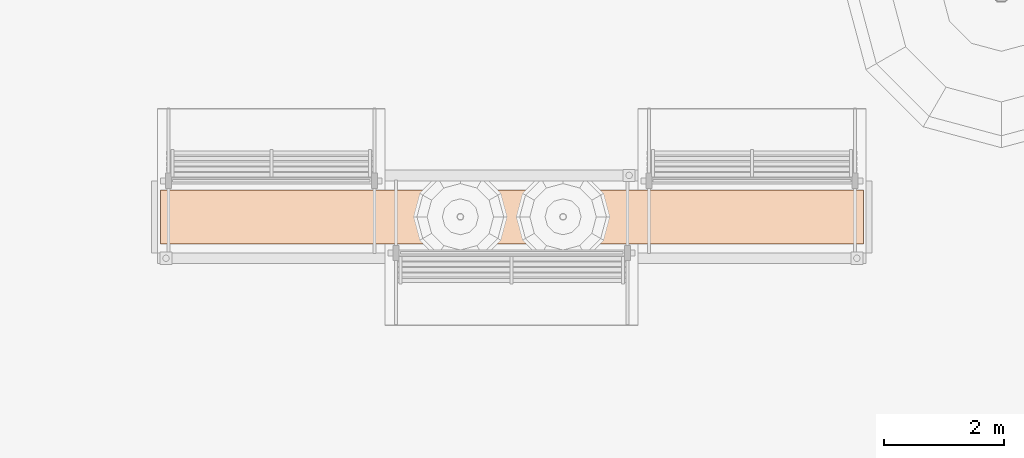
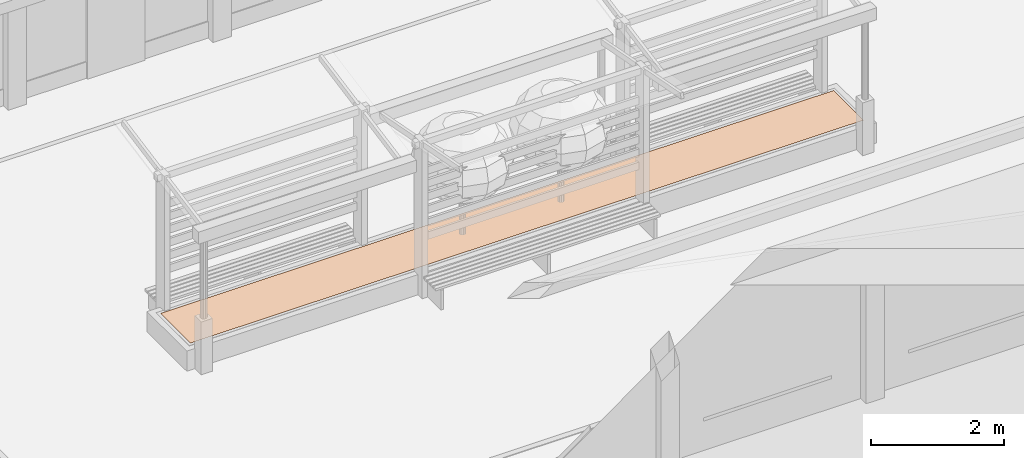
# One storey, part 172 of 177: 1 geographic element.
"""IFC4 building model written with IfcOpenShell, lengths in metres."""

from ifc_helpers import new_model, si_unit, origin, origin_with_axes, place, context, subcontext, project, spatial, triangles, element, save


model = new_model("IFC4")

# Units and contexts
model_context = context("Model", 3, precision=1e-05, world=origin_with_axes())
body_context = subcontext(model_context, "Body", "Model", "MODEL_VIEW")
ifc_project = project(units=[si_unit("LENGTHUNIT", "METRE"), si_unit("AREAUNIT", "SQUARE_METRE"), si_unit("VOLUMEUNIT", "CUBIC_METRE"), si_unit("PLANEANGLEUNIT", "RADIAN")], contexts=[model_context])

# Site, building, storey
site_placement = place(None, origin_with_axes())
site = spatial("IfcSite", under=ifc_project, at=site_placement, Name="Predio Los Mangos - Morales, San Martín", CompositionType="ELEMENT")
building_placement = place(site_placement, origin())
building = spatial("IfcBuilding", under=site, at=building_placement, Name="Hogar de Refugio Temporal", CompositionType="ELEMENT")
storey_placement = place(building_placement, origin())
storey = spatial("IfcBuildingStorey", under=building, at=storey_placement, Name="NIVEL 1 (NPT +0.00)", CompositionType="ELEMENT", Elevation=0.0)

# Geographic element
geographic_element_placement = place(storey_placement, origin())
element("IfcGeographicElement", 1, at=geographic_element_placement, inside=storey, Name="pasto_jardinera_2", ObjectType="Área verde", PredefinedType="TERRAIN", context=body_context, shape_type="Tessellation", body=[
    triangles([(34.505, 109.8, 0.455), (34.655, 109.8, 0.455), (34.655, 109.95, 0.455), (34.505, 109.95, 0.455), (34.655, 110.1, 0.455), (34.505, 110.1, 0.455), (34.655, 110.25, 0.455), (34.505, 110.25, 0.455), (34.655, 110.4, 0.455), (34.505, 110.4, 0.455), (34.655, 110.55, 0.455), (34.505, 110.55, 0.455), (34.655, 110.7, 0.455), (34.505, 110.7, 0.455), (34.805, 109.8, 0.455), (34.805, 109.95, 0.455), (34.805, 110.1, 0.455), (34.805, 110.25, 0.455), (34.805, 110.4, 0.455), (34.805, 110.55, 0.455), (34.805, 110.7, 0.455), (34.955, 109.8, 0.455), (34.955, 109.95, 0.455), (34.955, 110.1, 0.455), (34.955, 110.25, 0.455), (34.955, 110.4, 0.455), (34.955, 110.55, 0.455), (34.955, 110.7, 0.455), (35.105, 109.8, 0.455), (35.105, 109.95, 0.455), (35.105, 110.1, 0.455), (35.105, 110.25, 0.455), (35.105, 110.4, 0.455), (35.105, 110.55, 0.455), (35.105, 110.7, 0.455), (35.255, 109.8, 0.455), (35.255, 109.95, 0.455), (35.255, 110.1, 0.455), (35.255, 110.25, 0.455), (35.255, 110.4, 0.455), (35.255, 110.55, 0.455), (35.255, 110.7, 0.455), (35.405, 109.8, 0.455), (35.405, 109.95, 0.455), (35.405, 110.1, 0.455), (35.405, 110.25, 0.455), (35.405, 110.4, 0.455), (35.405, 110.55, 0.455), (35.405, 110.7, 0.455), (35.555, 109.8, 0.455), (35.555, 109.95, 0.455), (35.555, 110.1, 0.455), (35.555, 110.25, 0.455), (35.555, 110.4, 0.455), (35.555, 110.55, 0.455), (35.555, 110.7, 0.455), (35.705, 109.8, 0.455), (35.705, 109.95, 0.455), (35.705, 110.1, 0.455), (35.705, 110.25, 0.455), (35.705, 110.4, 0.455), (35.705, 110.55, 0.455), (35.705, 110.7, 0.455), (35.855, 109.8, 0.455), (35.855, 109.95, 0.455), (35.855, 110.1, 0.455), (35.855, 110.25, 0.455), (35.855, 110.4, 0.455), (35.855, 110.55, 0.455), (35.855, 110.7, 0.455), (36.005, 109.8, 0.455), (36.005, 109.95, 0.455), (36.005, 110.1, 0.455), (36.005, 110.25, 0.455), (36.005, 110.4, 0.455), (36.005, 110.55, 0.455), (36.005, 110.7, 0.455), (36.155, 109.8, 0.455), (36.155, 109.95, 0.455), (36.155, 110.1, 0.455), (36.155, 110.25, 0.455), (36.155, 110.4, 0.455), (36.155, 110.55, 0.455), (36.155, 110.7, 0.455), (36.305, 109.8, 0.455), (36.305, 109.95, 0.455), (36.305, 110.1, 0.455), (36.305, 110.25, 0.455), (36.305, 110.4, 0.455), (36.305, 110.55, 0.455), (36.305, 110.7, 0.455), (36.455, 109.8, 0.455), (36.455, 109.95, 0.455), (36.455, 110.1, 0.455), (36.455, 110.25, 0.455), (36.455, 110.4, 0.455), (36.455, 110.55, 0.455), (36.455, 110.7, 0.455), (36.605, 109.8, 0.455), (36.605, 109.95, 0.455), (36.605, 110.1, 0.455), (36.605, 110.25, 0.455), (36.605, 110.4, 0.455), (36.605, 110.55, 0.455), (36.605, 110.7, 0.455), (36.755, 109.8, 0.455), (36.755, 109.95, 0.455), (36.755, 110.1, 0.455), (36.755, 110.25, 0.455), (36.755, 110.4, 0.455), (36.755, 110.55, 0.455), (36.755, 110.7, 0.455), (36.905, 109.8, 0.455), (36.905, 109.95, 0.455), (36.905, 110.1, 0.455), (36.905, 110.25, 0.455), (36.905, 110.4, 0.455), (36.905, 110.55, 0.455), (36.905, 110.7, 0.455), (37.055, 109.8, 0.455), (37.055, 109.95, 0.455), (37.055, 110.1, 0.455), (37.055, 110.25, 0.455), (37.055, 110.4, 0.455), (37.055, 110.55, 0.455), (37.055, 110.7, 0.455), (37.205, 109.8, 0.455), (37.205, 109.95, 0.455), (37.205, 110.1, 0.455), (37.205, 110.25, 0.455), (37.205, 110.4, 0.455), (37.205, 110.55, 0.455), (37.205, 110.7, 0.455), (37.355, 109.8, 0.455), (37.355, 109.95, 0.455), (37.355, 110.1, 0.455), (37.355, 110.25, 0.455), (37.355, 110.4, 0.455), (37.355, 110.55, 0.455), (37.355, 110.7, 0.455), (37.505, 109.8, 0.455), (37.505, 109.95, 0.455), (37.505, 110.1, 0.455), (37.505, 110.25, 0.455), (37.505, 110.4, 0.455), (37.505, 110.55, 0.455), (37.505, 110.7, 0.455), (37.655, 109.8, 0.455), (37.655, 109.95, 0.455), (37.655, 110.1, 0.455), (37.655, 110.25, 0.455), (37.655, 110.4, 0.455), (37.655, 110.55, 0.455), (37.655, 110.7, 0.455), (37.805, 109.8, 0.455), (37.805, 109.95, 0.455), (37.805, 110.1, 0.455), (37.805, 110.25, 0.455), (37.805, 110.4, 0.455), (37.805, 110.55, 0.455), (37.805, 110.7, 0.455), (37.955, 109.8, 0.455), (37.955, 109.95, 0.455), (37.955, 110.1, 0.455), (37.955, 110.25, 0.455), (37.955, 110.4, 0.455), (37.955, 110.55, 0.455), (37.955, 110.7, 0.455), (38.105, 109.8, 0.455), (38.105, 109.95, 0.455), (38.105, 110.1, 0.455), (38.105, 110.25, 0.455), (38.105, 110.4, 0.455), (38.105, 110.55, 0.455), (38.105, 110.7, 0.455), (38.255, 109.8, 0.455), (38.255, 109.95, 0.455), (38.255, 110.1, 0.455), (38.255, 110.25, 0.455), (38.255, 110.4, 0.455), (38.255, 110.55, 0.455), (38.255, 110.7, 0.455), (38.405, 109.8, 0.455), (38.405, 109.95, 0.455), (38.405, 110.1, 0.455), (38.405, 110.25, 0.455), (38.405, 110.4, 0.455), (38.405, 110.55, 0.455), (38.405, 110.7, 0.455), (38.555, 109.8, 0.455), (38.555, 109.95, 0.455), (38.555, 110.1, 0.455), (38.555, 110.25, 0.455), (38.555, 110.4, 0.455), (38.555, 110.55, 0.455), (38.555, 110.7, 0.455), (38.705, 109.8, 0.455), (38.705, 109.95, 0.455), (38.705, 110.1, 0.455), (38.705, 110.25, 0.455), (38.705, 110.4, 0.455), (38.705, 110.55, 0.455), (38.705, 110.7, 0.455), (38.855, 109.8, 0.455), (38.855, 109.95, 0.455), (38.855, 110.1, 0.455), (38.855, 110.25, 0.455), (38.855, 110.4, 0.455), (38.855, 110.55, 0.455), (38.855, 110.7, 0.455), (39.005, 109.8, 0.455), (39.005, 109.95, 0.455), (39.005, 110.1, 0.455), (39.005, 110.25, 0.455), (39.005, 110.4, 0.455), (39.005, 110.55, 0.455), (39.005, 110.7, 0.455), (39.155, 109.8, 0.455), (39.155, 109.95, 0.455), (39.155, 110.1, 0.455), (39.155, 110.25, 0.455), (39.155, 110.4, 0.455), (39.155, 110.55, 0.455), (39.155, 110.7, 0.455), (39.305, 109.8, 0.455), (39.305, 109.95, 0.455), (39.305, 110.1, 0.455), (39.305, 110.25, 0.455), (39.305, 110.4, 0.455), (39.305, 110.55, 0.455), (39.305, 110.7, 0.455), (39.455, 109.8, 0.455), (39.455, 109.95, 0.455), (39.455, 110.1, 0.455), (39.455, 110.25, 0.455), (39.455, 110.4, 0.455), (39.455, 110.55, 0.455), (39.455, 110.7, 0.455), (39.605, 109.8, 0.455), (39.605, 109.95, 0.455), (39.605, 110.1, 0.455), (39.605, 110.25, 0.455), (39.605, 110.4, 0.455), (39.605, 110.55, 0.455), (39.605, 110.7, 0.455), (39.755, 109.8, 0.455), (39.755, 109.95, 0.455), (39.755, 110.1, 0.455), (39.755, 110.25, 0.455), (39.755, 110.4, 0.455), (39.755, 110.55, 0.455), (39.755, 110.7, 0.455), (39.905, 109.8, 0.455), (39.905, 109.95, 0.455), (39.905, 110.1, 0.455), (39.905, 110.25, 0.455), (39.905, 110.4, 0.455), (39.905, 110.55, 0.455), (39.905, 110.7, 0.455), (40.055, 109.8, 0.455), (40.055, 109.95, 0.455), (40.055, 110.1, 0.455), (40.055, 110.25, 0.455), (40.055, 110.4, 0.455), (40.055, 110.55, 0.455), (40.055, 110.7, 0.455), (40.205, 109.8, 0.455), (40.205, 109.95, 0.455), (40.205, 110.1, 0.455), (40.205, 110.25, 0.455), (40.205, 110.4, 0.455), (40.205, 110.55, 0.455), (40.205, 110.7, 0.455), (40.355, 109.8, 0.455), (40.355, 109.95, 0.455), (40.355, 110.1, 0.455), (40.355, 110.25, 0.455), (40.355, 110.4, 0.455), (40.355, 110.55, 0.455), (40.355, 110.7, 0.455), (40.505, 109.8, 0.455), (40.505, 109.95, 0.455), (40.505, 110.1, 0.455), (40.505, 110.25, 0.455), (40.505, 110.4, 0.455), (40.505, 110.55, 0.455), (40.505, 110.7, 0.455), (40.655, 109.8, 0.455), (40.655, 109.95, 0.455), (40.655, 110.1, 0.455), (40.655, 110.25, 0.455), (40.655, 110.4, 0.455), (40.655, 110.55, 0.455), (40.655, 110.7, 0.455), (40.805, 109.8, 0.455), (40.805, 109.95, 0.455), (40.805, 110.1, 0.455), (40.805, 110.25, 0.455), (40.805, 110.4, 0.455), (40.805, 110.55, 0.455), (40.805, 110.7, 0.455), (40.955, 109.8, 0.455), (40.955, 109.95, 0.455), (40.955, 110.1, 0.455), (40.955, 110.25, 0.455), (40.955, 110.4, 0.455), (40.955, 110.55, 0.455), (40.955, 110.7, 0.455), (41.105, 109.8, 0.455), (41.105, 109.95, 0.455), (41.105, 110.1, 0.455), (41.105, 110.25, 0.455), (41.105, 110.4, 0.455), (41.105, 110.55, 0.455), (41.105, 110.7, 0.455), (41.255, 109.8, 0.455), (41.255, 109.95, 0.455), (41.255, 110.1, 0.455), (41.255, 110.25, 0.455), (41.255, 110.4, 0.455), (41.255, 110.55, 0.455), (41.255, 110.7, 0.455), (41.405, 109.8, 0.455), (41.405, 109.95, 0.455), (41.405, 110.1, 0.455), (41.405, 110.25, 0.455), (41.405, 110.4, 0.455), (41.405, 110.55, 0.455), (41.405, 110.7, 0.455), (41.555, 109.8, 0.455), (41.555, 109.95, 0.455), (41.555, 110.1, 0.455), (41.555, 110.25, 0.455), (41.555, 110.4, 0.455), (41.555, 110.55, 0.455), (41.555, 110.7, 0.455), (41.705, 109.8, 0.455), (41.705, 109.95, 0.455), (41.705, 110.1, 0.455), (41.705, 110.25, 0.455), (41.705, 110.4, 0.455), (41.705, 110.55, 0.455), (41.705, 110.7, 0.455), (41.855, 109.8, 0.455), (41.855, 109.95, 0.455), (41.855, 110.1, 0.455), (41.855, 110.25, 0.455), (41.855, 110.4, 0.455), (41.855, 110.55, 0.455), (41.855, 110.7, 0.455), (42.005, 109.8, 0.455), (42.005, 109.95, 0.455), (42.005, 110.1, 0.455), (42.005, 110.25, 0.455), (42.005, 110.4, 0.455), (42.005, 110.55, 0.455), (42.005, 110.7, 0.455), (42.155, 109.8, 0.455), (42.155, 109.95, 0.455), (42.155, 110.1, 0.455), (42.155, 110.25, 0.455), (42.155, 110.4, 0.455), (42.155, 110.55, 0.455), (42.155, 110.7, 0.455), (42.305, 109.8, 0.455), (42.305, 109.95, 0.455), (42.305, 110.1, 0.455), (42.305, 110.25, 0.455), (42.305, 110.4, 0.455), (42.305, 110.55, 0.455), (42.305, 110.7, 0.455), (42.455, 109.8, 0.455), (42.455, 109.95, 0.455), (42.455, 110.1, 0.455), (42.455, 110.25, 0.455), (42.455, 110.4, 0.455), (42.455, 110.55, 0.455), (42.455, 110.7, 0.455), (42.605, 109.8, 0.455), (42.605, 109.95, 0.455), (42.605, 110.1, 0.455), (42.605, 110.25, 0.455), (42.605, 110.4, 0.455), (42.605, 110.55, 0.455), (42.605, 110.7, 0.455), (42.755, 109.8, 0.455), (42.755, 109.95, 0.455), (42.755, 110.1, 0.455), (42.755, 110.25, 0.455), (42.755, 110.4, 0.455), (42.755, 110.55, 0.455), (42.755, 110.7, 0.455), (42.905, 109.8, 0.455), (42.905, 109.95, 0.455), (42.905, 110.1, 0.455), (42.905, 110.25, 0.455), (42.905, 110.4, 0.455), (42.905, 110.55, 0.455), (42.905, 110.7, 0.455), (43.055, 109.8, 0.455), (43.055, 109.95, 0.455), (43.055, 110.1, 0.455), (43.055, 110.25, 0.455), (43.055, 110.4, 0.455), (43.055, 110.55, 0.455), (43.055, 110.7, 0.455), (43.205, 109.8, 0.455), (43.205, 109.95, 0.455), (43.205, 110.1, 0.455), (43.205, 110.25, 0.455), (43.205, 110.4, 0.455), (43.205, 110.55, 0.455), (43.205, 110.7, 0.455), (43.355, 109.8, 0.455), (43.355, 109.95, 0.455), (43.355, 110.1, 0.455), (43.355, 110.25, 0.455), (43.355, 110.4, 0.455), (43.355, 110.55, 0.455), (43.355, 110.7, 0.455), (43.505, 109.8, 0.455), (43.505, 109.95, 0.455), (43.505, 110.1, 0.455), (43.505, 110.25, 0.455), (43.505, 110.4, 0.455), (43.505, 110.55, 0.455), (43.505, 110.7, 0.455), (43.655, 109.8, 0.455), (43.655, 109.95, 0.455), (43.655, 110.1, 0.455), (43.655, 110.25, 0.455), (43.655, 110.4, 0.455), (43.655, 110.55, 0.455), (43.655, 110.7, 0.455), (43.805, 109.8, 0.455), (43.805, 109.95, 0.455), (43.805, 110.1, 0.455), (43.805, 110.25, 0.455), (43.805, 110.4, 0.455), (43.805, 110.55, 0.455), (43.805, 110.7, 0.455), (43.955, 109.8, 0.455), (43.955, 109.95, 0.455), (43.955, 110.1, 0.455), (43.955, 110.25, 0.455), (43.955, 110.4, 0.455), (43.955, 110.55, 0.455), (43.955, 110.7, 0.455), (44.105, 109.8, 0.455), (44.105, 109.95, 0.455), (44.105, 110.1, 0.455), (44.105, 110.25, 0.455), (44.105, 110.4, 0.455), (44.105, 110.55, 0.455), (44.105, 110.7, 0.455), (44.255, 109.8, 0.455), (44.255, 109.95, 0.455), (44.255, 110.1, 0.455), (44.255, 110.25, 0.455), (44.255, 110.4, 0.455), (44.255, 110.55, 0.455), (44.255, 110.7, 0.455), (44.405, 109.8, 0.455), (44.405, 109.95, 0.455), (44.405, 110.1, 0.455), (44.405, 110.25, 0.455), (44.405, 110.4, 0.455), (44.405, 110.55, 0.455), (44.405, 110.7, 0.455), (44.555, 109.8, 0.455), (44.555, 109.95, 0.455), (44.555, 110.1, 0.455), (44.555, 110.25, 0.455), (44.555, 110.4, 0.455), (44.555, 110.55, 0.455), (44.555, 110.7, 0.455), (44.705, 109.8, 0.455), (44.705, 109.95, 0.455), (44.705, 110.1, 0.455), (44.705, 110.25, 0.455), (44.705, 110.4, 0.455), (44.705, 110.55, 0.455), (44.705, 110.7, 0.455), (44.855, 109.8, 0.455), (44.855, 109.95, 0.455), (44.855, 110.1, 0.455), (44.855, 110.25, 0.455), (44.855, 110.4, 0.455), (44.855, 110.55, 0.455), (44.855, 110.7, 0.455), (45.005, 109.8, 0.455), (45.005, 109.95, 0.455), (45.005, 110.1, 0.455), (45.005, 110.25, 0.455), (45.005, 110.4, 0.455), (45.005, 110.55, 0.455), (45.005, 110.7, 0.455), (45.155, 109.8, 0.455), (45.155, 109.95, 0.455), (45.155, 110.1, 0.455), (45.155, 110.25, 0.455), (45.155, 110.4, 0.455), (45.155, 110.55, 0.455), (45.155, 110.7, 0.455), (45.305, 109.8, 0.455), (45.305, 109.95, 0.455), (45.305, 110.1, 0.455), (45.305, 110.25, 0.455), (45.305, 110.4, 0.455), (45.305, 110.55, 0.455), (45.305, 110.7, 0.455), (45.455, 109.8, 0.455), (45.455, 109.95, 0.455), (45.455, 110.1, 0.455), (45.455, 110.25, 0.455), (45.455, 110.4, 0.455), (45.455, 110.55, 0.455), (45.455, 110.7, 0.455), (45.605, 109.8, 0.455), (45.605, 109.95, 0.455), (45.605, 110.1, 0.455), (45.605, 110.25, 0.455), (45.605, 110.4, 0.455), (45.605, 110.55, 0.455), (45.605, 110.7, 0.455), (45.755, 109.8, 0.455), (45.755, 109.95, 0.455), (45.755, 110.1, 0.455), (45.755, 110.25, 0.455), (45.755, 110.4, 0.455), (45.755, 110.55, 0.455), (45.755, 110.7, 0.455), (45.905, 109.8, 0.455), (45.905, 109.95, 0.455), (45.905, 110.1, 0.455), (45.905, 110.25, 0.455), (45.905, 110.4, 0.455), (45.905, 110.55, 0.455), (45.905, 110.7, 0.455), (46.055, 109.8, 0.455), (46.055, 109.95, 0.455), (46.055, 110.1, 0.455), (46.055, 110.25, 0.455), (46.055, 110.4, 0.455), (46.055, 110.55, 0.455), (46.055, 110.7, 0.455), (46.205, 109.8, 0.455), (46.205, 109.95, 0.455), (46.205, 110.1, 0.455), (46.205, 110.25, 0.455), (46.205, 110.4, 0.455), (46.205, 110.55, 0.455), (46.205, 110.7, 0.455)], [[1, 2, 3], [1, 3, 4], [4, 3, 5], [4, 5, 6], [6, 5, 7], [6, 7, 8], [8, 7, 9], [8, 9, 10], [10, 9, 11], [10, 11, 12], [12, 11, 13], [12, 13, 14], [2, 15, 16], [2, 16, 3], [3, 16, 17], [3, 17, 5], [5, 17, 18], [5, 18, 7], [7, 18, 19], [7, 19, 9], [9, 19, 20], [9, 20, 11], [11, 20, 21], [11, 21, 13], [15, 22, 23], [15, 23, 16], [16, 23, 24], [16, 24, 17], [17, 24, 25], [17, 25, 18], [18, 25, 26], [18, 26, 19], [19, 26, 27], [19, 27, 20], [20, 27, 28], [20, 28, 21], [22, 29, 30], [22, 30, 23], [23, 30, 31], [23, 31, 24], [24, 31, 32], [24, 32, 25], [25, 32, 33], [25, 33, 26], [26, 33, 34], [26, 34, 27], [27, 34, 35], [27, 35, 28], [29, 36, 37], [29, 37, 30], [30, 37, 38], [30, 38, 31], [31, 38, 39], [31, 39, 32], [32, 39, 40], [32, 40, 33], [33, 40, 41], [33, 41, 34], [34, 41, 42], [34, 42, 35], [36, 43, 44], [36, 44, 37], [37, 44, 45], [37, 45, 38], [38, 45, 46], [38, 46, 39], [39, 46, 47], [39, 47, 40], [40, 47, 48], [40, 48, 41], [41, 48, 49], [41, 49, 42], [43, 50, 51], [43, 51, 44], [44, 51, 52], [44, 52, 45], [45, 52, 53], [45, 53, 46], [46, 53, 54], [46, 54, 47], [47, 54, 55], [47, 55, 48], [48, 55, 56], [48, 56, 49], [50, 57, 58], [50, 58, 51], [51, 58, 59], [51, 59, 52], [52, 59, 60], [52, 60, 53], [53, 60, 61], [53, 61, 54], [54, 61, 62], [54, 62, 55], [55, 62, 63], [55, 63, 56], [57, 64, 65], [57, 65, 58], [58, 65, 66], [58, 66, 59], [59, 66, 67], [59, 67, 60], [60, 67, 68], [60, 68, 61], [61, 68, 69], [61, 69, 62], [62, 69, 70], [62, 70, 63], [64, 71, 72], [64, 72, 65], [65, 72, 73], [65, 73, 66], [66, 73, 74], [66, 74, 67], [67, 74, 75], [67, 75, 68], [68, 75, 76], [68, 76, 69], [69, 76, 77], [69, 77, 70], [71, 78, 79], [71, 79, 72], [72, 79, 80], [72, 80, 73], [73, 80, 81], [73, 81, 74], [74, 81, 82], [74, 82, 75], [75, 82, 83], [75, 83, 76], [76, 83, 84], [76, 84, 77], [78, 85, 86], [78, 86, 79], [79, 86, 87], [79, 87, 80], [80, 87, 88], [80, 88, 81], [81, 88, 89], [81, 89, 82], [82, 89, 90], [82, 90, 83], [83, 90, 91], [83, 91, 84], [85, 92, 93], [85, 93, 86], [86, 93, 94], [86, 94, 87], [87, 94, 95], [87, 95, 88], [88, 95, 96], [88, 96, 89], [89, 96, 97], [89, 97, 90], [90, 97, 98], [90, 98, 91], [92, 99, 100], [92, 100, 93], [93, 100, 101], [93, 101, 94], [94, 101, 102], [94, 102, 95], [95, 102, 103], [95, 103, 96], [96, 103, 104], [96, 104, 97], [97, 104, 105], [97, 105, 98], [99, 106, 107], [99, 107, 100], [100, 107, 108], [100, 108, 101], [101, 108, 109], [101, 109, 102], [102, 109, 110], [102, 110, 103], [103, 110, 111], [103, 111, 104], [104, 111, 112], [104, 112, 105], [106, 113, 114], [106, 114, 107], [107, 114, 115], [107, 115, 108], [108, 115, 116], [108, 116, 109], [109, 116, 117], [109, 117, 110], [110, 117, 118], [110, 118, 111], [111, 118, 119], [111, 119, 112], [113, 120, 121], [113, 121, 114], [114, 121, 122], [114, 122, 115], [115, 122, 123], [115, 123, 116], [116, 123, 124], [116, 124, 117], [117, 124, 125], [117, 125, 118], [118, 125, 126], [118, 126, 119], [120, 127, 128], [120, 128, 121], [121, 128, 129], [121, 129, 122], [122, 129, 130], [122, 130, 123], [123, 130, 131], [123, 131, 124], [124, 131, 132], [124, 132, 125], [125, 132, 133], [125, 133, 126], [127, 134, 135], [127, 135, 128], [128, 135, 136], [128, 136, 129], [129, 136, 137], [129, 137, 130], [130, 137, 138], [130, 138, 131], [131, 138, 139], [131, 139, 132], [132, 139, 140], [132, 140, 133], [134, 141, 142], [134, 142, 135], [135, 142, 143], [135, 143, 136], [136, 143, 144], [136, 144, 137], [137, 144, 145], [137, 145, 138], [138, 145, 146], [138, 146, 139], [139, 146, 147], [139, 147, 140], [141, 148, 149], [141, 149, 142], [142, 149, 150], [142, 150, 143], [143, 150, 151], [143, 151, 144], [144, 151, 152], [144, 152, 145], [145, 152, 153], [145, 153, 146], [146, 153, 154], [146, 154, 147], [148, 155, 156], [148, 156, 149], [149, 156, 157], [149, 157, 150], [150, 157, 158], [150, 158, 151], [151, 158, 159], [151, 159, 152], [152, 159, 160], [152, 160, 153], [153, 160, 161], [153, 161, 154], [155, 162, 163], [155, 163, 156], [156, 163, 164], [156, 164, 157], [157, 164, 165], [157, 165, 158], [158, 165, 166], [158, 166, 159], [159, 166, 167], [159, 167, 160], [160, 167, 168], [160, 168, 161], [162, 169, 170], [162, 170, 163], [163, 170, 171], [163, 171, 164], [164, 171, 172], [164, 172, 165], [165, 172, 173], [165, 173, 166], [166, 173, 174], [166, 174, 167], [167, 174, 175], [167, 175, 168], [169, 176, 177], [169, 177, 170], [170, 177, 178], [170, 178, 171], [171, 178, 179], [171, 179, 172], [172, 179, 180], [172, 180, 173], [173, 180, 181], [173, 181, 174], [174, 181, 182], [174, 182, 175], [176, 183, 184], [176, 184, 177], [177, 184, 185], [177, 185, 178], [178, 185, 186], [178, 186, 179], [179, 186, 187], [179, 187, 180], [180, 187, 188], [180, 188, 181], [181, 188, 189], [181, 189, 182], [183, 190, 191], [183, 191, 184], [184, 191, 192], [184, 192, 185], [185, 192, 193], [185, 193, 186], [186, 193, 194], [186, 194, 187], [187, 194, 195], [187, 195, 188], [188, 195, 196], [188, 196, 189], [190, 197, 198], [190, 198, 191], [191, 198, 199], [191, 199, 192], [192, 199, 200], [192, 200, 193], [193, 200, 201], [193, 201, 194], [194, 201, 202], [194, 202, 195], [195, 202, 203], [195, 203, 196], [197, 204, 205], [197, 205, 198], [198, 205, 206], [198, 206, 199], [199, 206, 207], [199, 207, 200], [200, 207, 208], [200, 208, 201], [201, 208, 209], [201, 209, 202], [202, 209, 210], [202, 210, 203], [204, 211, 212], [204, 212, 205], [205, 212, 213], [205, 213, 206], [206, 213, 214], [206, 214, 207], [207, 214, 215], [207, 215, 208], [208, 215, 216], [208, 216, 209], [209, 216, 217], [209, 217, 210], [211, 218, 219], [211, 219, 212], [212, 219, 220], [212, 220, 213], [213, 220, 221], [213, 221, 214], [214, 221, 222], [214, 222, 215], [215, 222, 223], [215, 223, 216], [216, 223, 224], [216, 224, 217], [218, 225, 226], [218, 226, 219], [219, 226, 227], [219, 227, 220], [220, 227, 228], [220, 228, 221], [221, 228, 229], [221, 229, 222], [222, 229, 230], [222, 230, 223], [223, 230, 231], [223, 231, 224], [225, 232, 233], [225, 233, 226], [226, 233, 234], [226, 234, 227], [227, 234, 235], [227, 235, 228], [228, 235, 236], [228, 236, 229], [229, 236, 237], [229, 237, 230], [230, 237, 238], [230, 238, 231], [232, 239, 240], [232, 240, 233], [233, 240, 241], [233, 241, 234], [234, 241, 242], [234, 242, 235], [235, 242, 243], [235, 243, 236], [236, 243, 244], [236, 244, 237], [237, 244, 245], [237, 245, 238], [239, 246, 247], [239, 247, 240], [240, 247, 248], [240, 248, 241], [241, 248, 249], [241, 249, 242], [242, 249, 250], [242, 250, 243], [243, 250, 251], [243, 251, 244], [244, 251, 252], [244, 252, 245], [246, 253, 254], [246, 254, 247], [247, 254, 255], [247, 255, 248], [248, 255, 256], [248, 256, 249], [249, 256, 257], [249, 257, 250], [250, 257, 258], [250, 258, 251], [251, 258, 259], [251, 259, 252], [253, 260, 261], [253, 261, 254], [254, 261, 262], [254, 262, 255], [255, 262, 263], [255, 263, 256], [256, 263, 264], [256, 264, 257], [257, 264, 265], [257, 265, 258], [258, 265, 266], [258, 266, 259], [260, 267, 268], [260, 268, 261], [261, 268, 269], [261, 269, 262], [262, 269, 270], [262, 270, 263], [263, 270, 271], [263, 271, 264], [264, 271, 272], [264, 272, 265], [265, 272, 273], [265, 273, 266], [267, 274, 275], [267, 275, 268], [268, 275, 276], [268, 276, 269], [269, 276, 277], [269, 277, 270], [270, 277, 278], [270, 278, 271], [271, 278, 279], [271, 279, 272], [272, 279, 280], [272, 280, 273], [274, 281, 282], [274, 282, 275], [275, 282, 283], [275, 283, 276], [276, 283, 284], [276, 284, 277], [277, 284, 285], [277, 285, 278], [278, 285, 286], [278, 286, 279], [279, 286, 287], [279, 287, 280], [281, 288, 289], [281, 289, 282], [282, 289, 290], [282, 290, 283], [283, 290, 291], [283, 291, 284], [284, 291, 292], [284, 292, 285], [285, 292, 293], [285, 293, 286], [286, 293, 294], [286, 294, 287], [288, 295, 296], [288, 296, 289], [289, 296, 297], [289, 297, 290], [290, 297, 298], [290, 298, 291], [291, 298, 299], [291, 299, 292], [292, 299, 300], [292, 300, 293], [293, 300, 301], [293, 301, 294], [295, 302, 303], [295, 303, 296], [296, 303, 304], [296, 304, 297], [297, 304, 305], [297, 305, 298], [298, 305, 306], [298, 306, 299], [299, 306, 307], [299, 307, 300], [300, 307, 308], [300, 308, 301], [302, 309, 310], [302, 310, 303], [303, 310, 311], [303, 311, 304], [304, 311, 312], [304, 312, 305], [305, 312, 313], [305, 313, 306], [306, 313, 314], [306, 314, 307], [307, 314, 315], [307, 315, 308], [309, 316, 317], [309, 317, 310], [310, 317, 318], [310, 318, 311], [311, 318, 319], [311, 319, 312], [312, 319, 320], [312, 320, 313], [313, 320, 321], [313, 321, 314], [314, 321, 322], [314, 322, 315], [316, 323, 324], [316, 324, 317], [317, 324, 325], [317, 325, 318], [318, 325, 326], [318, 326, 319], [319, 326, 327], [319, 327, 320], [320, 327, 328], [320, 328, 321], [321, 328, 329], [321, 329, 322], [323, 330, 331], [323, 331, 324], [324, 331, 332], [324, 332, 325], [325, 332, 333], [325, 333, 326], [326, 333, 334], [326, 334, 327], [327, 334, 335], [327, 335, 328], [328, 335, 336], [328, 336, 329], [330, 337, 338], [330, 338, 331], [331, 338, 339], [331, 339, 332], [332, 339, 340], [332, 340, 333], [333, 340, 341], [333, 341, 334], [334, 341, 342], [334, 342, 335], [335, 342, 343], [335, 343, 336], [337, 344, 345], [337, 345, 338], [338, 345, 346], [338, 346, 339], [339, 346, 347], [339, 347, 340], [340, 347, 348], [340, 348, 341], [341, 348, 349], [341, 349, 342], [342, 349, 350], [342, 350, 343], [344, 351, 352], [344, 352, 345], [345, 352, 353], [345, 353, 346], [346, 353, 354], [346, 354, 347], [347, 354, 355], [347, 355, 348], [348, 355, 356], [348, 356, 349], [349, 356, 357], [349, 357, 350], [351, 358, 359], [351, 359, 352], [352, 359, 360], [352, 360, 353], [353, 360, 361], [353, 361, 354], [354, 361, 362], [354, 362, 355], [355, 362, 363], [355, 363, 356], [356, 363, 364], [356, 364, 357], [358, 365, 366], [358, 366, 359], [359, 366, 367], [359, 367, 360], [360, 367, 368], [360, 368, 361], [361, 368, 369], [361, 369, 362], [362, 369, 370], [362, 370, 363], [363, 370, 371], [363, 371, 364], [365, 372, 373], [365, 373, 366], [366, 373, 374], [366, 374, 367], [367, 374, 375], [367, 375, 368], [368, 375, 376], [368, 376, 369], [369, 376, 377], [369, 377, 370], [370, 377, 378], [370, 378, 371], [372, 379, 380], [372, 380, 373], [373, 380, 381], [373, 381, 374], [374, 381, 382], [374, 382, 375], [375, 382, 383], [375, 383, 376], [376, 383, 384], [376, 384, 377], [377, 384, 385], [377, 385, 378], [379, 386, 387], [379, 387, 380], [380, 387, 388], [380, 388, 381], [381, 388, 389], [381, 389, 382], [382, 389, 390], [382, 390, 383], [383, 390, 391], [383, 391, 384], [384, 391, 392], [384, 392, 385], [386, 393, 394], [386, 394, 387], [387, 394, 395], [387, 395, 388], [388, 395, 396], [388, 396, 389], [389, 396, 397], [389, 397, 390], [390, 397, 398], [390, 398, 391], [391, 398, 399], [391, 399, 392], [393, 400, 401], [393, 401, 394], [394, 401, 402], [394, 402, 395], [395, 402, 403], [395, 403, 396], [396, 403, 404], [396, 404, 397], [397, 404, 405], [397, 405, 398], [398, 405, 406], [398, 406, 399], [400, 407, 408], [400, 408, 401], [401, 408, 409], [401, 409, 402], [402, 409, 410], [402, 410, 403], [403, 410, 411], [403, 411, 404], [404, 411, 412], [404, 412, 405], [405, 412, 413], [405, 413, 406], [407, 414, 415], [407, 415, 408], [408, 415, 416], [408, 416, 409], [409, 416, 417], [409, 417, 410], [410, 417, 418], [410, 418, 411], [411, 418, 419], [411, 419, 412], [412, 419, 420], [412, 420, 413], [414, 421, 422], [414, 422, 415], [415, 422, 423], [415, 423, 416], [416, 423, 424], [416, 424, 417], [417, 424, 425], [417, 425, 418], [418, 425, 426], [418, 426, 419], [419, 426, 427], [419, 427, 420], [421, 428, 429], [421, 429, 422], [422, 429, 430], [422, 430, 423], [423, 430, 431], [423, 431, 424], [424, 431, 432], [424, 432, 425], [425, 432, 433], [425, 433, 426], [426, 433, 434], [426, 434, 427], [428, 435, 436], [428, 436, 429], [429, 436, 437], [429, 437, 430], [430, 437, 438], [430, 438, 431], [431, 438, 439], [431, 439, 432], [432, 439, 440], [432, 440, 433], [433, 440, 441], [433, 441, 434], [435, 442, 443], [435, 443, 436], [436, 443, 444], [436, 444, 437], [437, 444, 445], [437, 445, 438], [438, 445, 446], [438, 446, 439], [439, 446, 447], [439, 447, 440], [440, 447, 448], [440, 448, 441], [442, 449, 450], [442, 450, 443], [443, 450, 451], [443, 451, 444], [444, 451, 452], [444, 452, 445], [445, 452, 453], [445, 453, 446], [446, 453, 454], [446, 454, 447], [447, 454, 455], [447, 455, 448], [449, 456, 457], [449, 457, 450], [450, 457, 458], [450, 458, 451], [451, 458, 459], [451, 459, 452], [452, 459, 460], [452, 460, 453], [453, 460, 461], [453, 461, 454], [454, 461, 462], [454, 462, 455], [456, 463, 464], [456, 464, 457], [457, 464, 465], [457, 465, 458], [458, 465, 466], [458, 466, 459], [459, 466, 467], [459, 467, 460], [460, 467, 468], [460, 468, 461], [461, 468, 469], [461, 469, 462], [463, 470, 471], [463, 471, 464], [464, 471, 472], [464, 472, 465], [465, 472, 473], [465, 473, 466], [466, 473, 474], [466, 474, 467], [467, 474, 475], [467, 475, 468], [468, 475, 476], [468, 476, 469], [470, 477, 478], [470, 478, 471], [471, 478, 479], [471, 479, 472], [472, 479, 480], [472, 480, 473], [473, 480, 481], [473, 481, 474], [474, 481, 482], [474, 482, 475], [475, 482, 483], [475, 483, 476], [477, 484, 485], [477, 485, 478], [478, 485, 486], [478, 486, 479], [479, 486, 487], [479, 487, 480], [480, 487, 488], [480, 488, 481], [481, 488, 489], [481, 489, 482], [482, 489, 490], [482, 490, 483], [484, 491, 492], [484, 492, 485], [485, 492, 493], [485, 493, 486], [486, 493, 494], [486, 494, 487], [487, 494, 495], [487, 495, 488], [488, 495, 496], [488, 496, 489], [489, 496, 497], [489, 497, 490], [491, 498, 499], [491, 499, 492], [492, 499, 500], [492, 500, 493], [493, 500, 501], [493, 501, 494], [494, 501, 502], [494, 502, 495], [495, 502, 503], [495, 503, 496], [496, 503, 504], [496, 504, 497], [498, 505, 506], [498, 506, 499], [499, 506, 507], [499, 507, 500], [500, 507, 508], [500, 508, 501], [501, 508, 509], [501, 509, 502], [502, 509, 510], [502, 510, 503], [503, 510, 511], [503, 511, 504], [505, 512, 513], [505, 513, 506], [506, 513, 514], [506, 514, 507], [507, 514, 515], [507, 515, 508], [508, 515, 516], [508, 516, 509], [509, 516, 517], [509, 517, 510], [510, 517, 518], [510, 518, 511], [512, 519, 520], [512, 520, 513], [513, 520, 521], [513, 521, 514], [514, 521, 522], [514, 522, 515], [515, 522, 523], [515, 523, 516], [516, 523, 524], [516, 524, 517], [517, 524, 525], [517, 525, 518], [519, 526, 527], [519, 527, 520], [520, 527, 528], [520, 528, 521], [521, 528, 529], [521, 529, 522], [522, 529, 530], [522, 530, 523], [523, 530, 531], [523, 531, 524], [524, 531, 532], [524, 532, 525], [526, 533, 534], [526, 534, 527], [527, 534, 535], [527, 535, 528], [528, 535, 536], [528, 536, 529], [529, 536, 537], [529, 537, 530], [530, 537, 538], [530, 538, 531], [531, 538, 539], [531, 539, 532], [533, 540, 541], [533, 541, 534], [534, 541, 542], [534, 542, 535], [535, 542, 543], [535, 543, 536], [536, 543, 544], [536, 544, 537], [537, 544, 545], [537, 545, 538], [538, 545, 546], [538, 546, 539], [540, 547, 548], [540, 548, 541], [541, 548, 549], [541, 549, 542], [542, 549, 550], [542, 550, 543], [543, 550, 551], [543, 551, 544], [544, 551, 552], [544, 552, 545], [545, 552, 553], [545, 553, 546]]),
])

save(model, "model.ifc")
